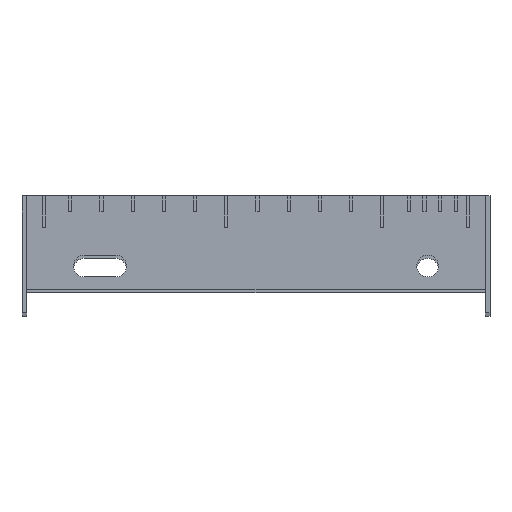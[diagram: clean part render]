
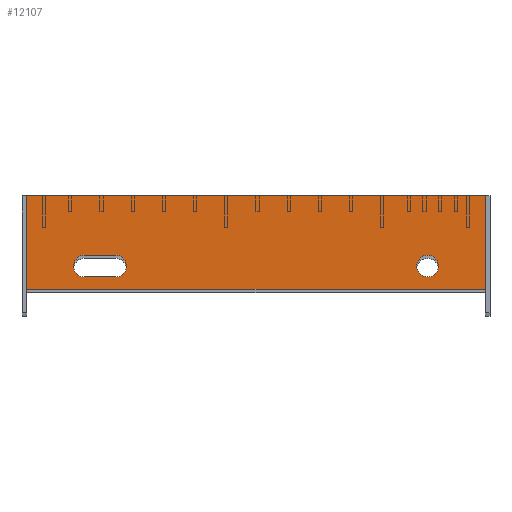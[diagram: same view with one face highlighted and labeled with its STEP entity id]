
A CAD part, top view. The second image highlights one B-rep face of the part: STEP entity #12107.
In plain terms, the highlighted planar face has unit normal (0, 0, 1).
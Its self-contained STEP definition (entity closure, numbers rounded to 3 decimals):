
#219 = DIRECTION ( 'NONE',  ( 1., 0., 0. ) ) ;
#1717 = CARTESIAN_POINT ( 'NONE',  ( 0., 60., 0. ) ) ;
#2378 = VERTEX_POINT ( 'NONE', #19951 ) ;
#2940 = ORIENTED_EDGE ( 'NONE', *, *, #34953, .T. ) ;
#4179 = EDGE_CURVE ( 'NONE', #25236, #75950, #28120, .T. ) ;
#4487 = EDGE_CURVE ( 'NONE', #22880, #46896, #55439, .T. ) ;
#9726 = CARTESIAN_POINT ( 'NONE',  ( 37., 15., 0. ) ) ;
#9964 = ORIENTED_EDGE ( 'NONE', *, *, #49640, .F. ) ;
#11095 = VERTEX_POINT ( 'NONE', #1717 ) ;
#11823 = CARTESIAN_POINT ( 'NONE',  ( 294., 0., 0. ) ) ;
#12107 = ADVANCED_FACE ( 'NONE', ( #61387, #26955, #78653 ), #65198, .F. ) ;
#12821 = EDGE_LOOP ( 'NONE', ( #30725 ) ) ;
#14331 = CARTESIAN_POINT ( 'NONE',  ( 257., 15., 0. ) ) ;
#14429 = AXIS2_PLACEMENT_3D ( 'NONE', #58655, #52116, #71710 ) ;
#15091 = VECTOR ( 'NONE', #18447, 1000. ) ;
#16129 = AXIS2_PLACEMENT_3D ( 'NONE', #77722, #38944, #219 ) ;
#16173 = DIRECTION ( 'NONE',  ( 1., 0., 0. ) ) ;
#17524 = ORIENTED_EDGE ( 'NONE', *, *, #62482, .T. ) ;
#18324 = DIRECTION ( 'NONE',  ( 0., 1., 0. ) ) ;
#18447 = DIRECTION ( 'NONE',  ( 1., 0., 0. ) ) ;
#19951 = CARTESIAN_POINT ( 'NONE',  ( 294., 60., 0. ) ) ;
#20847 = DIRECTION ( 'NONE',  ( 1., 0., 0. ) ) ;
#22755 = EDGE_LOOP ( 'NONE', ( #44026, #2940, #75023, #17524 ) ) ;
#22880 = VERTEX_POINT ( 'NONE', #72190 ) ;
#23456 = EDGE_CURVE ( 'NONE', #11095, #29653, #69467, .T. ) ;
#24948 = LINE ( 'NONE', #76945, #78697 ) ;
#25236 = VERTEX_POINT ( 'NONE', #66232 ) ;
#25852 = CARTESIAN_POINT ( 'NONE',  ( 264., 15., 0. ) ) ;
#26955 = FACE_BOUND ( 'NONE', #12821, .T. ) ;
#27505 = CARTESIAN_POINT ( 'NONE',  ( 294., 0., 0. ) ) ;
#28120 = CIRCLE ( 'NONE', #16129, 7. ) ;
#28525 = CARTESIAN_POINT ( 'NONE',  ( 57., 22., 0. ) ) ;
#28975 = ORIENTED_EDGE ( 'NONE', *, *, #4179, .F. ) ;
#29653 = VERTEX_POINT ( 'NONE', #79632 ) ;
#30725 = ORIENTED_EDGE ( 'NONE', *, *, #44361, .F. ) ;
#31866 = EDGE_CURVE ( 'NONE', #37762, #2378, #74353, .T. ) ;
#31960 = AXIS2_PLACEMENT_3D ( 'NONE', #9726, #54983, #16173 ) ;
#32216 = CARTESIAN_POINT ( 'NONE',  ( 0., 0., 0. ) ) ;
#32387 = LINE ( 'NONE', #37730, #15091 ) ;
#33126 = VECTOR ( 'NONE', #73881, 1000. ) ;
#34953 = EDGE_CURVE ( 'NONE', #29653, #37762, #32387, .T. ) ;
#36290 = CARTESIAN_POINT ( 'NONE',  ( 57., 22., 0. ) ) ;
#37730 = CARTESIAN_POINT ( 'NONE',  ( 0., 0., 0. ) ) ;
#37762 = VERTEX_POINT ( 'NONE', #27505 ) ;
#38190 = DIRECTION ( 'NONE',  ( -1., 0., 0. ) ) ;
#38944 = DIRECTION ( 'NONE',  ( 0., 0., 1. ) ) ;
#39901 = VECTOR ( 'NONE', #18324, 1000. ) ;
#41219 = ORIENTED_EDGE ( 'NONE', *, *, #4487, .F. ) ;
#42009 = VECTOR ( 'NONE', #48445, 1000. ) ;
#43075 = CIRCLE ( 'NONE', #46141, 7. ) ;
#44026 = ORIENTED_EDGE ( 'NONE', *, *, #23456, .T. ) ;
#44046 = EDGE_LOOP ( 'NONE', ( #64615, #28975, #9964, #41219 ) ) ;
#44361 = EDGE_CURVE ( 'NONE', #55171, #55171, #43075, .T. ) ;
#46141 = AXIS2_PLACEMENT_3D ( 'NONE', #14331, #59640, #20847 ) ;
#46896 = VERTEX_POINT ( 'NONE', #79930 ) ;
#48445 = DIRECTION ( 'NONE',  ( 1., 0., 0. ) ) ;
#49640 = EDGE_CURVE ( 'NONE', #46896, #25236, #59231, .T. ) ;
#50276 = LINE ( 'NONE', #28525, #33126 ) ;
#51951 = DIRECTION ( 'NONE',  ( 0., -1., 0. ) ) ;
#52116 = DIRECTION ( 'NONE',  ( 0., 0., -1. ) ) ;
#54983 = DIRECTION ( 'NONE',  ( 0., 0., 1. ) ) ;
#55171 = VERTEX_POINT ( 'NONE', #25852 ) ;
#55439 = CIRCLE ( 'NONE', #31960, 7. ) ;
#58655 = CARTESIAN_POINT ( 'NONE',  ( 0., 0., 0. ) ) ;
#59231 = LINE ( 'NONE', #80771, #42009 ) ;
#59640 = DIRECTION ( 'NONE',  ( 0., 0., 1. ) ) ;
#61387 = FACE_BOUND ( 'NONE', #44046, .T. ) ;
#62482 = EDGE_CURVE ( 'NONE', #2378, #11095, #24948, .T. ) ;
#64615 = ORIENTED_EDGE ( 'NONE', *, *, #83026, .F. ) ;
#65198 = PLANE ( 'NONE',  #14429 ) ;
#65393 = VECTOR ( 'NONE', #51951, 1000. ) ;
#66232 = CARTESIAN_POINT ( 'NONE',  ( 57., 8., 0. ) ) ;
#69467 = LINE ( 'NONE', #32216, #65393 ) ;
#71710 = DIRECTION ( 'NONE',  ( -1., 0., 0. ) ) ;
#72190 = CARTESIAN_POINT ( 'NONE',  ( 37., 22., 0. ) ) ;
#73881 = DIRECTION ( 'NONE',  ( -1., 0., 0. ) ) ;
#74353 = LINE ( 'NONE', #11823, #39901 ) ;
#75023 = ORIENTED_EDGE ( 'NONE', *, *, #31866, .T. ) ;
#75950 = VERTEX_POINT ( 'NONE', #36290 ) ;
#76945 = CARTESIAN_POINT ( 'NONE',  ( 0., 60., 0. ) ) ;
#77722 = CARTESIAN_POINT ( 'NONE',  ( 57., 15., 0. ) ) ;
#78653 = FACE_OUTER_BOUND ( 'NONE', #22755, .T. ) ;
#78697 = VECTOR ( 'NONE', #38190, 1000. ) ;
#79632 = CARTESIAN_POINT ( 'NONE',  ( 0., 0., 0. ) ) ;
#79930 = CARTESIAN_POINT ( 'NONE',  ( 37., 8., 0. ) ) ;
#80771 = CARTESIAN_POINT ( 'NONE',  ( 57., 8., 0. ) ) ;
#83026 = EDGE_CURVE ( 'NONE', #75950, #22880, #50276, .T. ) ;
